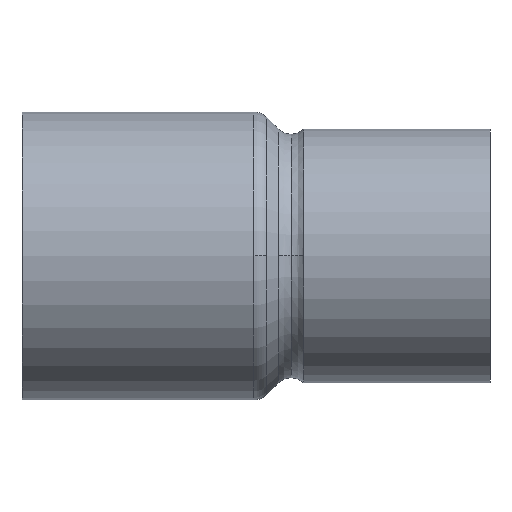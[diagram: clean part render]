
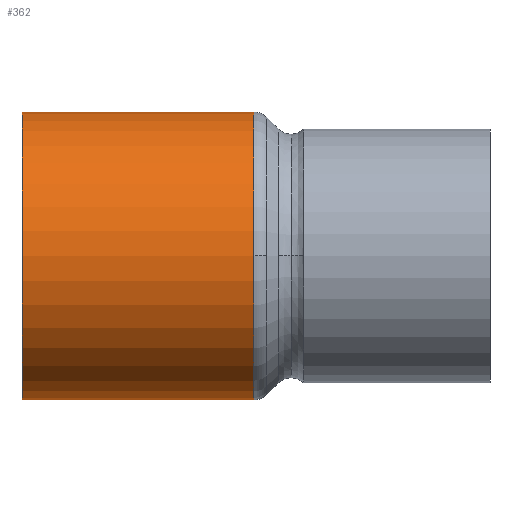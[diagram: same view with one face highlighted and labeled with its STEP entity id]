
A CAD part, top view. The second image highlights one B-rep face of the part: STEP entity #362.
In plain terms, the highlighted cylindrical face has radius 8 mm (diameter 16 mm), a partial arc.
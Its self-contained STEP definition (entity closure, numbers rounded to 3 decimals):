
#312=CARTESIAN_POINT('',(6.437,0.0,0.0));
#313=DIRECTION('',(1.0,0.0,0.0));
#314=DIRECTION('',(0.0,1.0,0.0));
#315=AXIS2_PLACEMENT_3D('',#312,#313,#314);
#316=CYLINDRICAL_SURFACE('',#315,8.0);
#317=CARTESIAN_POINT('',(0.,8.0,0.0));
#318=VERTEX_POINT('',#317);
#319=CARTESIAN_POINT('',(12.873,8.,0.0));
#320=VERTEX_POINT('',#319);
#321=CARTESIAN_POINT('',(0.,8.0,0.0));
#322=DIRECTION('',(1.0,0.0,0.0));
#323=VECTOR('',#322,12.873);
#324=LINE('',#321,#323);
#325=EDGE_CURVE('',#318,#320,#324,.T.);
#326=ORIENTED_EDGE('',*,*,#325,.F.);
#327=CARTESIAN_POINT('',(0.0,-8.0,0.));
#328=VERTEX_POINT('',#327);
#329=CARTESIAN_POINT('',(0.,0.0,0.0));
#330=DIRECTION('',(1.0,0.0,0.0));
#331=DIRECTION('',(0.0,1.0,0.0));
#332=AXIS2_PLACEMENT_3D('',#329,#330,#331);
#333=CIRCLE('',#332,8.0);
#334=EDGE_CURVE('',#318,#328,#333,.T.);
#335=ORIENTED_EDGE('',*,*,#334,.T.);
#336=CARTESIAN_POINT('',(12.873,-8.,0.));
#337=VERTEX_POINT('',#336);
#338=CARTESIAN_POINT('',(12.873,-8.,0.));
#339=DIRECTION('',(-1.0,0.0,0.0));
#340=VECTOR('',#339,12.873);
#341=LINE('',#338,#340);
#342=EDGE_CURVE('',#337,#328,#341,.T.);
#343=ORIENTED_EDGE('',*,*,#342,.F.);
#344=CARTESIAN_POINT('',(12.873,0.,8.));
#345=VERTEX_POINT('',#344);
#346=CARTESIAN_POINT('',(12.873,0.0,0.0));
#347=DIRECTION('',(1.0,0.0,0.0));
#348=DIRECTION('',(0.0,1.0,0.0));
#349=AXIS2_PLACEMENT_3D('',#346,#347,#348);
#350=CIRCLE('',#349,8.);
#351=EDGE_CURVE('',#345,#337,#350,.T.);
#352=ORIENTED_EDGE('',*,*,#351,.F.);
#353=CARTESIAN_POINT('',(12.873,0.0,0.0));
#354=DIRECTION('',(1.0,0.0,0.0));
#355=DIRECTION('',(0.0,1.0,0.0));
#356=AXIS2_PLACEMENT_3D('',#353,#354,#355);
#357=CIRCLE('',#356,8.);
#358=EDGE_CURVE('',#320,#345,#357,.T.);
#359=ORIENTED_EDGE('',*,*,#358,.F.);
#360=EDGE_LOOP('',(#326,#335,#343,#352,#359));
#361=FACE_OUTER_BOUND('',#360,.T.);
#362=ADVANCED_FACE('',(#361),#316,.T.);
